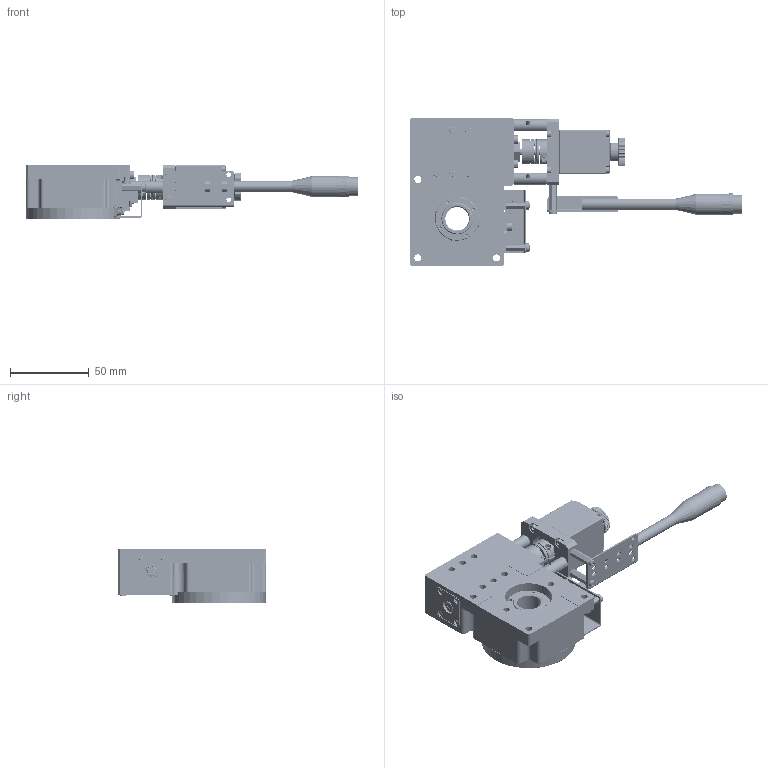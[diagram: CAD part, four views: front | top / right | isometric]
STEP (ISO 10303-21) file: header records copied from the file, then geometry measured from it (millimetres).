
FILE_DESCRIPTION (( 'STEP AP214' ), '1' );
FILE_NAME ('TRA6015-L1-M28.STEP', '2025-01-03T08:06:25', ( '' ), ( '' ), 'SwSTEP 2.0', 'SolidWorks 2020', '' );
FILE_SCHEMA (( 'AUTOMOTIVE_DESIGN' ));
Length unit declared in the file: millimetre
Products named in the file (1): TRA6015-L1-M28
Bounding box: 211.3 x 94 x 35 mm (x, y, z)
Volume: 196039.4 mm3; surface area: 112791 mm2
Topology: 153 solids, 169 shells, 4522 faces, 11234 edges, 7108 vertices
Faces by surface type: plane 2102, cylinder 1284, cone 533, torus 335, bspline 176, sphere 92
Entity records: 198796 total; most frequent: CARTESIAN_POINT 40452, DIRECTION 22300, ORIENTED_EDGE 21840, EDGE_CURVE 10920, AXIS2_PLACEMENT_3D 8086, VERTEX_POINT 7000, LINE 6128, VECTOR 6128
